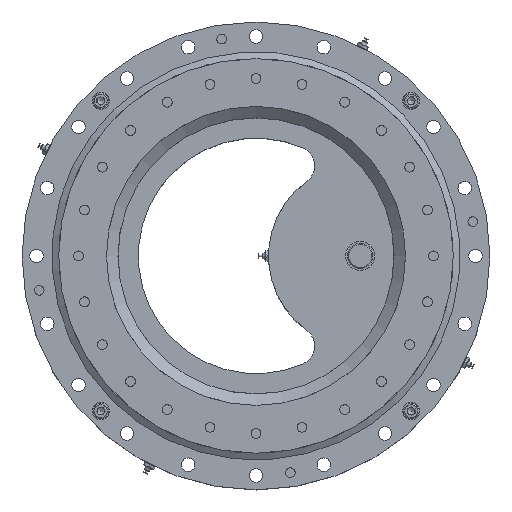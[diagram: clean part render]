
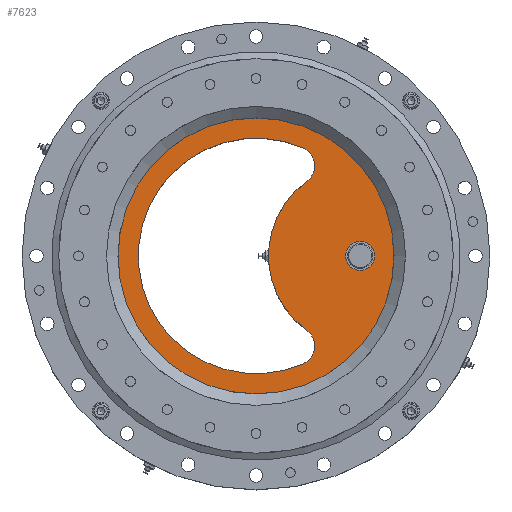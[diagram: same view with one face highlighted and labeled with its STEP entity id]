
A CAD part, top view. The second image highlights one B-rep face of the part: STEP entity #7623.
In plain terms, the highlighted planar face has unit normal (0, 0, 1).
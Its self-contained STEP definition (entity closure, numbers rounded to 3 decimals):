
#78=PLANE('',#8173);
#328=FACE_BOUND('',#1018,.T.);
#329=FACE_BOUND('',#1019,.T.);
#593=FACE_OUTER_BOUND('',#1017,.T.);
#1017=EDGE_LOOP('',(#5418));
#1018=EDGE_LOOP('',(#5419));
#1019=EDGE_LOOP('',(#5420,#5421,#5422,#5423));
#2540=CIRCLE('',#8061,95.);
#2542=CIRCLE('',#8064,122.);
#2618=CIRCLE('',#8171,20.);
#2620=CIRCLE('',#8174,144.);
#2621=CIRCLE('',#8175,13.);
#2622=CIRCLE('',#8176,20.);
#3144=VERTEX_POINT('',#11467);
#3145=VERTEX_POINT('',#11469);
#3150=VERTEX_POINT('',#11658);
#3151=VERTEX_POINT('',#11659);
#3226=VERTEX_POINT('',#11873);
#3227=VERTEX_POINT('',#11875);
#4012=EDGE_CURVE('',#3144,#3145,#2540,.T.);
#4018=EDGE_CURVE('',#3150,#3151,#2542,.T.);
#4123=EDGE_CURVE('',#3144,#3151,#2618,.T.);
#4125=EDGE_CURVE('',#3226,#3226,#2620,.T.);
#4126=EDGE_CURVE('',#3227,#3227,#2621,.T.);
#4127=EDGE_CURVE('',#3150,#3145,#2622,.T.);
#5418=ORIENTED_EDGE('',*,*,#4125,.T.);
#5419=ORIENTED_EDGE('',*,*,#4126,.T.);
#5420=ORIENTED_EDGE('',*,*,#4018,.F.);
#5421=ORIENTED_EDGE('',*,*,#4127,.T.);
#5422=ORIENTED_EDGE('',*,*,#4012,.F.);
#5423=ORIENTED_EDGE('',*,*,#4123,.T.);
#7623=ADVANCED_FACE('',(#593,#328,#329),#78,.T.);
#8061=AXIS2_PLACEMENT_3D('',#11470,#9026,#9027);
#8064=AXIS2_PLACEMENT_3D('',#11660,#9034,#9035);
#8171=AXIS2_PLACEMENT_3D('',#11870,#9277,#9278);
#8173=AXIS2_PLACEMENT_3D('',#11872,#9281,#9282);
#8174=AXIS2_PLACEMENT_3D('',#11874,#9283,#9284);
#8175=AXIS2_PLACEMENT_3D('',#11876,#9285,#9286);
#8176=AXIS2_PLACEMENT_3D('',#11877,#9287,#9288);
#9026=DIRECTION('center_axis',(0.,0.,-1.));
#9027=DIRECTION('ref_axis',(1.,0.,0.));
#9034=DIRECTION('center_axis',(0.,0.,1.));
#9035=DIRECTION('ref_axis',(1.,0.,0.));
#9277=DIRECTION('center_axis',(0.,0.,-1.));
#9278=DIRECTION('ref_axis',(1.,0.,0.));
#9281=DIRECTION('center_axis',(0.,0.,1.));
#9282=DIRECTION('ref_axis',(1.,0.,0.));
#9283=DIRECTION('center_axis',(0.,0.,1.));
#9284=DIRECTION('ref_axis',(1.,0.,0.));
#9285=DIRECTION('center_axis',(0.,0.,-1.));
#9286=DIRECTION('ref_axis',(-1.,0.,0.));
#9287=DIRECTION('center_axis',(0.,0.,-1.));
#9288=DIRECTION('ref_axis',(1.,0.,0.));
#11467=CARTESIAN_POINT('',(78.035,-75.499,469.578));
#11469=CARTESIAN_POINT('',(78.035,78.853,469.578));
#11470=CARTESIAN_POINT('Origin',(133.433,1.677,469.578));
#11658=CARTESIAN_POINT('',(74.4,113.419,469.578));
#11659=CARTESIAN_POINT('',(74.4,-110.065,469.578));
#11660=CARTESIAN_POINT('Origin',(25.433,1.677,469.578));
#11870=CARTESIAN_POINT('Origin',(66.373,-91.746,469.578));
#11872=CARTESIAN_POINT('Origin',(25.433,1.677,469.578));
#11873=CARTESIAN_POINT('',(-118.567,1.677,469.578));
#11874=CARTESIAN_POINT('Origin',(25.433,1.677,469.578));
#11875=CARTESIAN_POINT('',(146.433,1.677,469.578));
#11876=CARTESIAN_POINT('Origin',(133.433,1.677,469.578));
#11877=CARTESIAN_POINT('Origin',(66.373,95.1,469.578));
